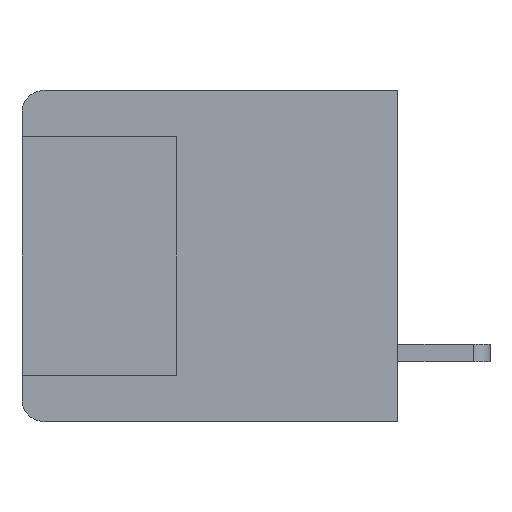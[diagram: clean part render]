
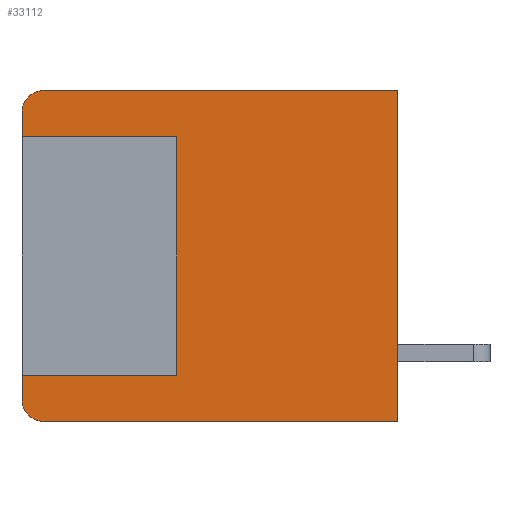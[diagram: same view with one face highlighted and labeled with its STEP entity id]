
A CAD part, left-side view. The second image highlights one B-rep face of the part: STEP entity #33112.
In plain terms, the highlighted planar face has unit normal (-1, 0, 0).
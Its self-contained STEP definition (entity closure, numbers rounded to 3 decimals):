
#33=DIRECTION('',(0.,1.,0.));
#34=VECTOR('',#33,16.);
#35=CARTESIAN_POINT('',(9.5,0.,-15.));
#36=LINE('',#35,#34);
#65=DIRECTION('',(0.,0.,-1.));
#66=VECTOR('',#65,15.);
#67=CARTESIAN_POINT('',(9.5,0.,0.));
#68=LINE('',#67,#66);
#7141=CARTESIAN_POINT('',(9.5,16.,-1.));
#7142=DIRECTION('',(-1.,0.,0.));
#7143=DIRECTION('',(0.,0.,1.));
#7144=AXIS2_PLACEMENT_3D('',#7141,#7142,#7143);
#7146=DIRECTION('',(0.,1.,0.));
#7147=VECTOR('',#7146,16.);
#7148=CARTESIAN_POINT('',(9.5,0.,0.));
#7149=LINE('',#7148,#7147);
#7150=CARTESIAN_POINT('',(9.5,16.,-14.));
#7151=DIRECTION('',(-1.,0.,0.));
#7152=DIRECTION('',(0.,1.,0.));
#7153=AXIS2_PLACEMENT_3D('',#7150,#7151,#7152);
#7159=DIRECTION('',(0.,0.,1.));
#7160=VECTOR('',#7159,1.1);
#7161=CARTESIAN_POINT('',(9.5,17.,-2.1));
#7162=LINE('',#7161,#7160);
#7163=DIRECTION('',(0.,0.,1.));
#7164=VECTOR('',#7163,1.1);
#7165=CARTESIAN_POINT('',(9.5,17.,-14.));
#7166=LINE('',#7165,#7164);
#20859=DIRECTION('',(0.,1.,0.));
#20860=VECTOR('',#20859,7.);
#20861=CARTESIAN_POINT('',(9.5,10.,-2.1));
#20862=LINE('',#20861,#20860);
#20879=DIRECTION('',(0.,-1.,0.));
#20880=VECTOR('',#20879,7.);
#20881=CARTESIAN_POINT('',(9.5,17.,-12.9));
#20882=LINE('',#20881,#20880);
#20895=DIRECTION('',(0.,0.,1.));
#20896=VECTOR('',#20895,10.8);
#20897=CARTESIAN_POINT('',(9.5,10.,-12.9));
#20898=LINE('',#20897,#20896);
#21135=CARTESIAN_POINT('',(9.5,0.,0.));
#21136=VERTEX_POINT('',#21135);
#21137=CARTESIAN_POINT('',(9.5,16.,0.));
#21138=VERTEX_POINT('',#21137);
#21187=CARTESIAN_POINT('',(9.5,17.,-1.));
#21188=VERTEX_POINT('',#21187);
#21189=CARTESIAN_POINT('',(9.5,0.,-15.));
#21190=VERTEX_POINT('',#21189);
#21191=CARTESIAN_POINT('',(9.5,16.,-15.));
#21192=VERTEX_POINT('',#21191);
#21193=CARTESIAN_POINT('',(9.5,17.,-14.));
#21194=VERTEX_POINT('',#21193);
#21195=CARTESIAN_POINT('',(9.5,17.,-12.9));
#21196=VERTEX_POINT('',#21195);
#21197=CARTESIAN_POINT('',(9.5,10.,-12.9));
#21198=VERTEX_POINT('',#21197);
#21199=CARTESIAN_POINT('',(9.5,10.,-2.1));
#21200=VERTEX_POINT('',#21199);
#21201=CARTESIAN_POINT('',(9.5,17.,-2.1));
#21202=VERTEX_POINT('',#21201);
#33088=CARTESIAN_POINT('',(9.5,17.,0.));
#33089=DIRECTION('',(-1.,0.,0.));
#33090=DIRECTION('',(0.,-1.,0.));
#33091=AXIS2_PLACEMENT_3D('',#33088,#33089,#33090);
#33092=PLANE('',#33091);
#33094=ORIENTED_EDGE('',*,*,#33093,.T.);
#33096=ORIENTED_EDGE('',*,*,#33095,.F.);
#33097=ORIENTED_EDGE('',*,*,#24818,.F.);
#33098=ORIENTED_EDGE('',*,*,#25011,.T.);
#33099=ORIENTED_EDGE('',*,*,#24938,.T.);
#33101=ORIENTED_EDGE('',*,*,#33100,.F.);
#33103=ORIENTED_EDGE('',*,*,#33102,.T.);
#33105=ORIENTED_EDGE('',*,*,#33104,.T.);
#33107=ORIENTED_EDGE('',*,*,#33106,.T.);
#33109=ORIENTED_EDGE('',*,*,#33108,.T.);
#33110=EDGE_LOOP('',(#33094,#33096,#33097,#33098,#33099,#33101,#33103,#33105,
#33107,#33109));
#33111=FACE_OUTER_BOUND('',#33110,.F.);
#33112=ADVANCED_FACE('',(#33111),#33092,.T.);
#7145=CIRCLE('',#7144,1.);
#7154=CIRCLE('',#7153,1.);
#24818=EDGE_CURVE('',#21136,#21138,#7149,.T.);
#24938=EDGE_CURVE('',#21190,#21192,#36,.T.);
#25011=EDGE_CURVE('',#21136,#21190,#68,.T.);
#33093=EDGE_CURVE('',#21202,#21188,#7162,.T.);
#33095=EDGE_CURVE('',#21138,#21188,#7145,.T.);
#33100=EDGE_CURVE('',#21194,#21192,#7154,.T.);
#33102=EDGE_CURVE('',#21194,#21196,#7166,.T.);
#33104=EDGE_CURVE('',#21196,#21198,#20882,.T.);
#33106=EDGE_CURVE('',#21198,#21200,#20898,.T.);
#33108=EDGE_CURVE('',#21200,#21202,#20862,.T.);
